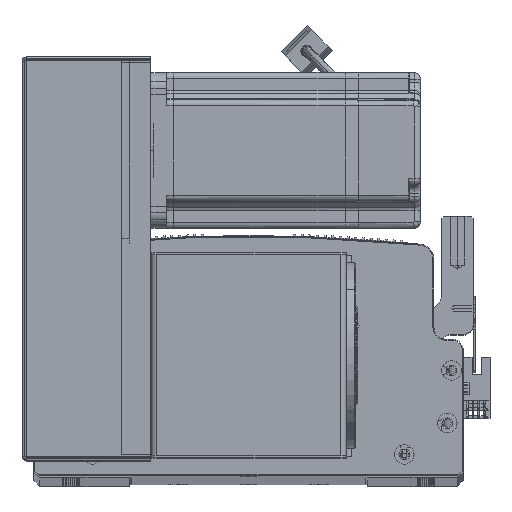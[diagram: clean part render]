
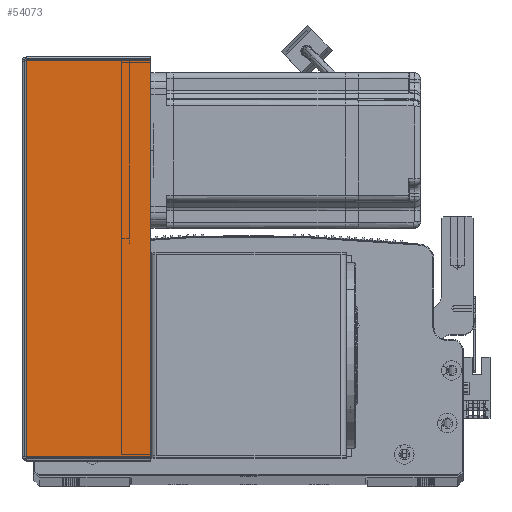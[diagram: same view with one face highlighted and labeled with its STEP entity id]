
A CAD part, top view. The second image highlights one B-rep face of the part: STEP entity #54073.
In plain terms, the highlighted planar face has unit normal (0, 0, 1) as drawn and (0, 1, 0) by its records, which use the part's own axes.
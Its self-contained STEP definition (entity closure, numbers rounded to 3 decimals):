
#7595 = CARTESIAN_POINT ( 'NONE',  ( 64.5, 107.5, -203.293 ) ) ;
#7982 = EDGE_CURVE ( 'NONE', #58464, #30903, #61172, .T. ) ;
#8858 = DIRECTION ( 'NONE',  ( 0., 0., -1. ) ) ;
#11785 = PLANE ( 'NONE',  #37599 ) ;
#19434 = CARTESIAN_POINT ( 'NONE',  ( 64.5, 107.5, -0.707 ) ) ;
#21810 = EDGE_CURVE ( 'NONE', #23629, #37554, #87789, .T. ) ;
#23629 = VERTEX_POINT ( 'NONE', #27964 ) ;
#24210 = VECTOR ( 'NONE', #78946, 1000. ) ;
#27225 = DIRECTION ( 'NONE',  ( 0., -1., 0. ) ) ;
#27496 = DIRECTION ( 'NONE',  ( 0., 0., -1. ) ) ;
#27964 = CARTESIAN_POINT ( 'NONE',  ( 0.737, 107.5, -0.707 ) ) ;
#29621 = LINE ( 'NONE', #38166, #91947 ) ;
#30903 = VERTEX_POINT ( 'NONE', #7595 ) ;
#34085 = LINE ( 'NONE', #49464, #74463 ) ;
#37554 = VERTEX_POINT ( 'NONE', #19434 ) ;
#37599 = AXIS2_PLACEMENT_3D ( 'NONE', #42415, #27225, #56937 ) ;
#38166 = CARTESIAN_POINT ( 'NONE',  ( 64.5, 107.5, -204. ) ) ;
#39200 = ORIENTED_EDGE ( 'NONE', *, *, #7982, .F. ) ;
#42415 = CARTESIAN_POINT ( 'NONE',  ( 0., 107.5, 0. ) ) ;
#42522 = CARTESIAN_POINT ( 'NONE',  ( 0., 107.5, -203.293 ) ) ;
#49304 = ORIENTED_EDGE ( 'NONE', *, *, #21810, .T. ) ;
#49464 = CARTESIAN_POINT ( 'NONE',  ( 0.737, 107.5, 0. ) ) ;
#50422 = CARTESIAN_POINT ( 'NONE',  ( 0.737, 107.5, -203.293 ) ) ;
#54073 = ADVANCED_FACE ( 'NONE', ( #78716 ), #11785, .F. ) ;
#56937 = DIRECTION ( 'NONE',  ( 1., 0., 0. ) ) ;
#58464 = VERTEX_POINT ( 'NONE', #50422 ) ;
#58497 = EDGE_CURVE ( 'NONE', #23629, #58464, #34085, .T. ) ;
#60573 = ORIENTED_EDGE ( 'NONE', *, *, #58497, .F. ) ;
#61172 = LINE ( 'NONE', #42522, #24210 ) ;
#65306 = EDGE_CURVE ( 'NONE', #37554, #30903, #29621, .T. ) ;
#74463 = VECTOR ( 'NONE', #27496, 1000. ) ;
#76327 = DIRECTION ( 'NONE',  ( 1., 0., 0. ) ) ;
#77290 = ORIENTED_EDGE ( 'NONE', *, *, #65306, .T. ) ;
#77461 = EDGE_LOOP ( 'NONE', ( #60573, #49304, #77290, #39200 ) ) ;
#78716 = FACE_OUTER_BOUND ( 'NONE', #77461, .T. ) ;
#78946 = DIRECTION ( 'NONE',  ( 1., 0., 0. ) ) ;
#80871 = VECTOR ( 'NONE', #76327, 1000. ) ;
#87630 = CARTESIAN_POINT ( 'NONE',  ( 0., 107.5, -0.707 ) ) ;
#87789 = LINE ( 'NONE', #87630, #80871 ) ;
#91947 = VECTOR ( 'NONE', #8858, 1000. ) ;
